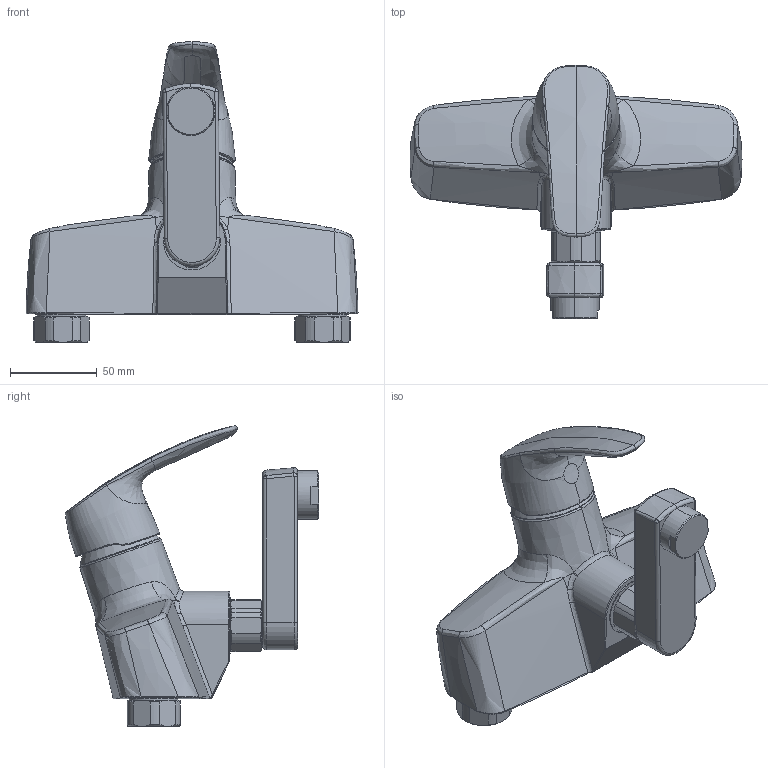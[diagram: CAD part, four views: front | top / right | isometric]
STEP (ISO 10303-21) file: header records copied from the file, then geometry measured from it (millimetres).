
FILE_DESCRIPTION (( 'STEP AP203' ), '1' );
FILE_NAME ('1016-104(2022)+1016-105(2022).STEP', '2022-02-21T10:10:34', ( '' ), ( '' ), 'SwSTEP 2.0', 'SolidWorks 2016', '' );
FILE_SCHEMA (( 'CONFIG_CONTROL_DESIGN' ));
Length unit declared in the file: millimetre
Products named in the file (1): 1016-104(2022)+1016-105(2022)
Bounding box: 191.05 x 145.87 x 172.92 mm (x, y, z)
Volume: 737486.6 mm3; surface area: 78025.7 mm2
Topology: 1 solids, 1 shells, 276 faces, 653 edges, 392 vertices
Faces by surface type: bspline 99, cylinder 63, plane 53, cone 49, torus 8, sphere 4
Entity records: 20788 total; most frequent: CARTESIAN_POINT 15181, ORIENTED_EDGE 1298, DIRECTION 954, EDGE_CURVE 649, AXIS2_PLACEMENT_3D 422, VERTEX_POINT 392, EDGE_LOOP 293, B_SPLINE_CURVE_WITH_KNOTS 282
